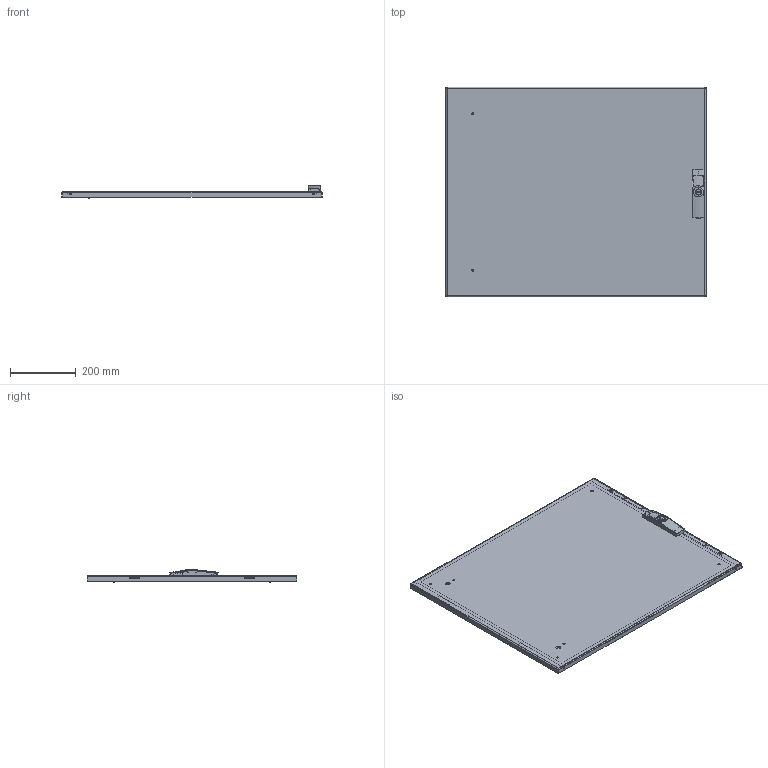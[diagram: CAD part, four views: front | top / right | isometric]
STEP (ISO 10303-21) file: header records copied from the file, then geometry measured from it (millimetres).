
FILE_DESCRIPTION (( 'STEP AP203' ), '1' );
FILE_NAME ('94850.step', '2013-03-05T09:31:39', ( '' ), ( '' ), 'SwSTEP 2.0', 'SolidWorks 2010', '' );
FILE_SCHEMA (( 'CONFIG_CONTROL_DESIGN' ));
Length unit declared in the file: millimetre
Products named in the file (29): 11458068_11458068; 94850; 11359806_11359806; 11359804_11359804; 60127175_60127175; 60127216_60127216; 60127140_60127140; 60127138_60127138; 87576035_87576035; 60127139_60127139; 11158132_THIKNESS .155 FIXED; 11158133_11581133; 60127424_60127424; 60127373_60127373; 60127182_60127182; 60127208; 60127207; 60127212; 60127277_60127277; 51232001_51232001; 60127173_60127173; 87954578_87954578; 60127101_After Weld; 60100041_60100041; 87931527_87931527; 87931368_SLEEVE; 87920638_87920638; 60127172_60127172; 87949526_87949526
Assembly tree (43 placements, depth 4):
  94850
    60127277_60127277  x3
      60127173_60127173
      51232001_51232001
    60127424_60127424
      60127212
      60127207
      60127208
      60127182_60127182
      60127373_60127373
    11458068_11458068
      60127172_60127172  x3
      60127101_After Weld  x2
      87949526_87949526
      87920638_87920638  x4
      87954578_87954578
      60100041_60100041  x2
        87931527_87931527
        87931368_SLEEVE
    11359806_11359806
      60127139_60127139  x2
      11359804_11359804
      11158133_11581133  x2
      60127175_60127175
      11158132_THIKNESS .155 FIXED  x4
      60127216_60127216  x2
        87576035_87576035
        60127138_60127138
        60127140_60127140
Bounding box: 791.79 x 638.99 x 41.86 mm (x, y, z)
Volume: 1218365 mm3; surface area: 1258661.7 mm2
Topology: 42 solids, 42 shells, 1805 faces, 4500 edges, 2792 vertices
Faces by surface type: plane 761, cylinder 606, cone 149, torus 147, bspline 127, sphere 15
Entity records: 42466 total; most frequent: CARTESIAN_POINT 11160, ORIENTED_EDGE 5988, DIRECTION 5592, EDGE_CURVE 2994, AXIS2_PLACEMENT_3D 2004, VERTEX_POINT 1889, LINE 1584, VECTOR 1584
